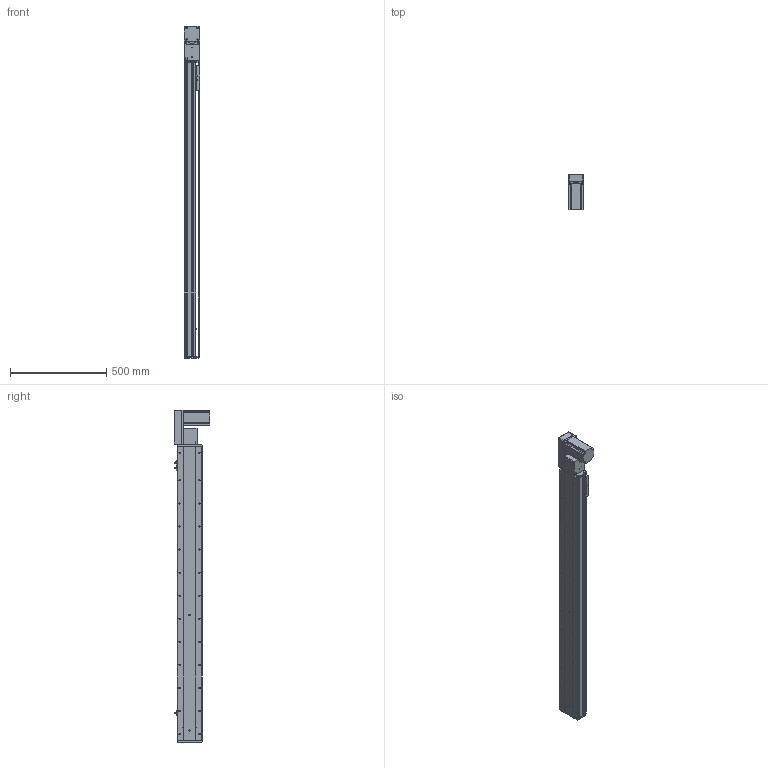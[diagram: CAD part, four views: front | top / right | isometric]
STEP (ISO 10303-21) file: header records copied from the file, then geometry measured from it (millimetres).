
FILE_DESCRIPTION (( 'STEP AP214' ), '1' );
FILE_NAME ('KSD130B-S1300-MRB-CM.STEP', '2019-09-21T07:06:58', ( '微软用户' ), ( '微软中国' ), 'SwSTEP 2.0', 'SolidWorks 2014', '' );
FILE_SCHEMA (( 'AUTOMOTIVE_DESIGN' ));
Length unit declared in the file: millimetre
Products named in the file (12): U倰嫖萇EEㄜSX672; 130宽盖板半封闭同步带-1300行程; 130宽马达安装板同步带右-改镜向_默认<按加工>; 130宽马达安装板同步带半封闭; 130宽同步带安装座半封闭; 130宽端盖同步带半封闭; 130宽底板半封闭同步带-1300行程; KSD130B-S1300-MRB-CM; 台达ECMA－C20807AS伺服电机; 130宽模组保护罩上下左右折-同步带; 130宽模组马达安装板连板左右折同步带; 覜茼え100遵圉猾敕
Assembly tree (13 placements, depth 2):
  KSD130B-S1300-MRB-CM
    130宽底板半封闭同步带-1300行程
    130宽端盖同步带半封闭
    130宽同步带安装座半封闭
    130宽马达安装板同步带半封闭
    130宽马达安装板同步带右-改镜向_默认<按加工>
    130宽盖板半封闭同步带-1300行程
    U倰嫖萇EEㄜSX672  x3
    覜茼え100遵圉猾敕
    130宽模组马达安装板连板左右折同步带
    130宽模组保护罩上下左右折-同步带
    台达ECMA－C20807AS伺服电机
Bounding box: 81 x 184.8 x 1727 mm (x, y, z)
Volume: 5798109.2 mm3; surface area: 1610022.7 mm2
Topology: 14 solids, 14 shells, 1607 faces, 4621 edges, 2941 vertices
Faces by surface type: cylinder 778, plane 634, cone 195
Entity records: 53599 total; most frequent: CARTESIAN_POINT 10110, DIRECTION 8123, ORIENTED_EDGE 7838, EDGE_CURVE 3919, AXIS2_PLACEMENT_3D 2974, VERTEX_POINT 2565, LINE 2175, VECTOR 2175
